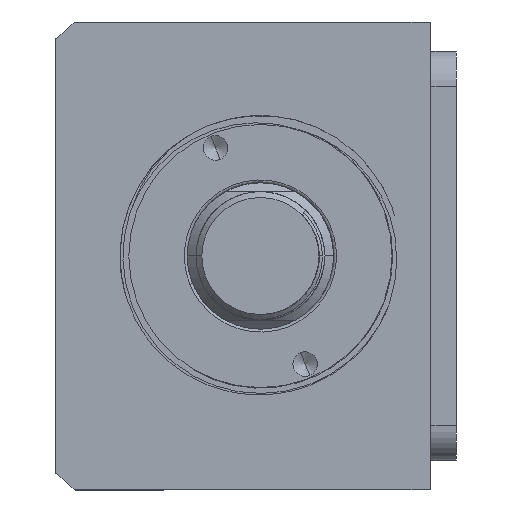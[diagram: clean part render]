
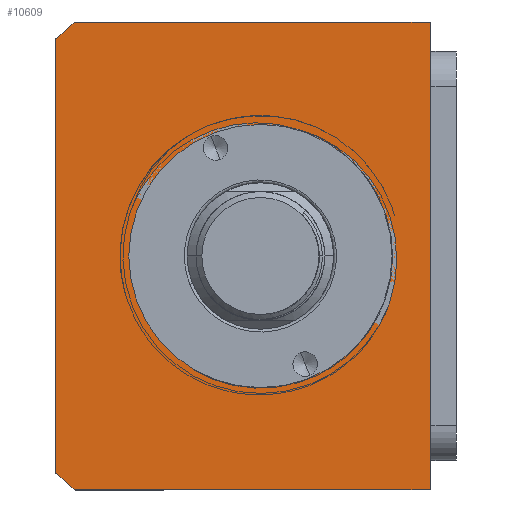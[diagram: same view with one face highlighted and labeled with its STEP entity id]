
A CAD part, front view. The second image highlights one B-rep face of the part: STEP entity #10609.
In plain terms, the highlighted planar face has unit normal (0, -1, 0) as drawn and (0, 0, 1) by its records, which use the part's own axes.
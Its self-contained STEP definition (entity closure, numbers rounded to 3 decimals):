
#12 = LINE ( 'NONE', #12116, #14158 ) ;
#692 = CARTESIAN_POINT ( 'NONE',  ( 0., 3., 130. ) ) ;
#882 = CARTESIAN_POINT ( 'NONE',  ( 0., 0., 130. ) ) ;
#929 = VERTEX_POINT ( 'NONE', #12791 ) ;
#1092 = CARTESIAN_POINT ( 'NONE',  ( 0., 3., 130. ) ) ;
#1301 = DIRECTION ( 'NONE',  ( 0., 0., 1. ) ) ;
#1486 = FACE_OUTER_BOUND ( 'NONE', #6724, .T. ) ;
#2087 = DIRECTION ( 'NONE',  ( 1., 0., 0. ) ) ;
#2413 = ORIENTED_EDGE ( 'NONE', *, *, #7998, .T. ) ;
#2495 = DIRECTION ( 'NONE',  ( 1., 0., 0. ) ) ;
#2683 = ORIENTED_EDGE ( 'NONE', *, *, #10050, .T. ) ;
#3643 = LINE ( 'NONE', #9766, #17770 ) ;
#4254 = LINE ( 'NONE', #8559, #8310 ) ;
#4444 = CARTESIAN_POINT ( 'NONE',  ( -40., 32., 130. ) ) ;
#4776 = VERTEX_POINT ( 'NONE', #8708 ) ;
#4947 = DIRECTION ( 'NONE',  ( 0., 1., 0. ) ) ;
#4971 = DIRECTION ( 'NONE',  ( 0., 0., 1. ) ) ;
#4996 = AXIS2_PLACEMENT_3D ( 'NONE', #1092, #10684, #2495 ) ;
#5137 = FACE_BOUND ( 'NONE', #6312, .T. ) ;
#5533 = VERTEX_POINT ( 'NONE', #17533 ) ;
#5574 = EDGE_CURVE ( 'NONE', #4776, #13535, #12, .T. ) ;
#6003 = CIRCLE ( 'NONE', #16128, 22.5 ) ;
#6312 = EDGE_LOOP ( 'NONE', ( #8501, #16390 ) ) ;
#6623 = AXIS2_PLACEMENT_3D ( 'NONE', #882, #1301, #10899 ) ;
#6723 = ORIENTED_EDGE ( 'NONE', *, *, #14662, .T. ) ;
#6724 = EDGE_LOOP ( 'NONE', ( #2683, #2413, #11608, #14686, #6723, #10350 ) ) ;
#6864 = CARTESIAN_POINT ( 'NONE',  ( 0., 3., 130. ) ) ;
#6975 = VERTEX_POINT ( 'NONE', #14879 ) ;
#7998 = EDGE_CURVE ( 'NONE', #14846, #4776, #15208, .T. ) ;
#8130 = CIRCLE ( 'NONE', #13233, 22.5 ) ;
#8221 = DIRECTION ( 'NONE',  ( 1., 0., 0. ) ) ;
#8228 = EDGE_CURVE ( 'NONE', #13535, #13328, #8984, .T. ) ;
#8310 = VECTOR ( 'NONE', #15258, 1000. ) ;
#8401 = EDGE_CURVE ( 'NONE', #6975, #5533, #8130, .T. ) ;
#8501 = ORIENTED_EDGE ( 'NONE', *, *, #10509, .F. ) ;
#8559 = CARTESIAN_POINT ( 'NONE',  ( -40., 32., 130. ) ) ;
#8623 = CARTESIAN_POINT ( 'NONE',  ( 37.094, -32., 130. ) ) ;
#8708 = CARTESIAN_POINT ( 'NONE',  ( -37.094, -32., 130. ) ) ;
#8984 = CIRCLE ( 'NONE', #4996, 51. ) ;
#8998 = AXIS2_PLACEMENT_3D ( 'NONE', #692, #10283, #2087 ) ;
#9506 = PLANE ( 'NONE',  #6623 ) ;
#9766 = CARTESIAN_POINT ( 'NONE',  ( -40., 32., 130. ) ) ;
#10050 = EDGE_CURVE ( 'NONE', #13498, #14846, #4254, .T. ) ;
#10283 = DIRECTION ( 'NONE',  ( 0., 0., 1. ) ) ;
#10311 = EDGE_CURVE ( 'NONE', #929, #13498, #3643, .T. ) ;
#10350 = ORIENTED_EDGE ( 'NONE', *, *, #10311, .T. ) ;
#10509 = EDGE_CURVE ( 'NONE', #5533, #6975, #6003, .T. ) ;
#10609 = ADVANCED_FACE ( 'NONE', ( #5137, #1486 ), #9506, .T. ) ;
#10684 = DIRECTION ( 'NONE',  ( 0., 0., 1. ) ) ;
#10899 = DIRECTION ( 'NONE',  ( 1., 0., 0. ) ) ;
#11608 = ORIENTED_EDGE ( 'NONE', *, *, #5574, .T. ) ;
#12116 = CARTESIAN_POINT ( 'NONE',  ( -40., -32., 130. ) ) ;
#12141 = VECTOR ( 'NONE', #4947, 1000. ) ;
#12791 = CARTESIAN_POINT ( 'NONE',  ( 40., 32., 130. ) ) ;
#13124 = CARTESIAN_POINT ( 'NONE',  ( 40., 32., 130. ) ) ;
#13151 = CARTESIAN_POINT ( 'NONE',  ( 0., 3., 130. ) ) ;
#13233 = AXIS2_PLACEMENT_3D ( 'NONE', #6864, #16423, #8221 ) ;
#13328 = VERTEX_POINT ( 'NONE', #15979 ) ;
#13498 = VERTEX_POINT ( 'NONE', #4444 ) ;
#13535 = VERTEX_POINT ( 'NONE', #8623 ) ;
#14158 = VECTOR ( 'NONE', #17585, 1000. ) ;
#14556 = DIRECTION ( 'NONE',  ( 1., 0., 0. ) ) ;
#14662 = EDGE_CURVE ( 'NONE', #13328, #929, #16226, .T. ) ;
#14686 = ORIENTED_EDGE ( 'NONE', *, *, #8228, .T. ) ;
#14846 = VERTEX_POINT ( 'NONE', #16614 ) ;
#14879 = CARTESIAN_POINT ( 'NONE',  ( -22.5, 3., 130. ) ) ;
#15208 = CIRCLE ( 'NONE', #8998, 51. ) ;
#15258 = DIRECTION ( 'NONE',  ( 0., -1., 0. ) ) ;
#15979 = CARTESIAN_POINT ( 'NONE',  ( 40., -28.639, 130. ) ) ;
#16128 = AXIS2_PLACEMENT_3D ( 'NONE', #13151, #4971, #14556 ) ;
#16226 = LINE ( 'NONE', #13124, #12141 ) ;
#16390 = ORIENTED_EDGE ( 'NONE', *, *, #8401, .F. ) ;
#16423 = DIRECTION ( 'NONE',  ( 0., 0., 1. ) ) ;
#16600 = DIRECTION ( 'NONE',  ( -1., 0., 0. ) ) ;
#16614 = CARTESIAN_POINT ( 'NONE',  ( -40., -28.639, 130. ) ) ;
#17533 = CARTESIAN_POINT ( 'NONE',  ( 22.5, 3., 130. ) ) ;
#17585 = DIRECTION ( 'NONE',  ( 1., 0., 0. ) ) ;
#17770 = VECTOR ( 'NONE', #16600, 1000. ) ;
